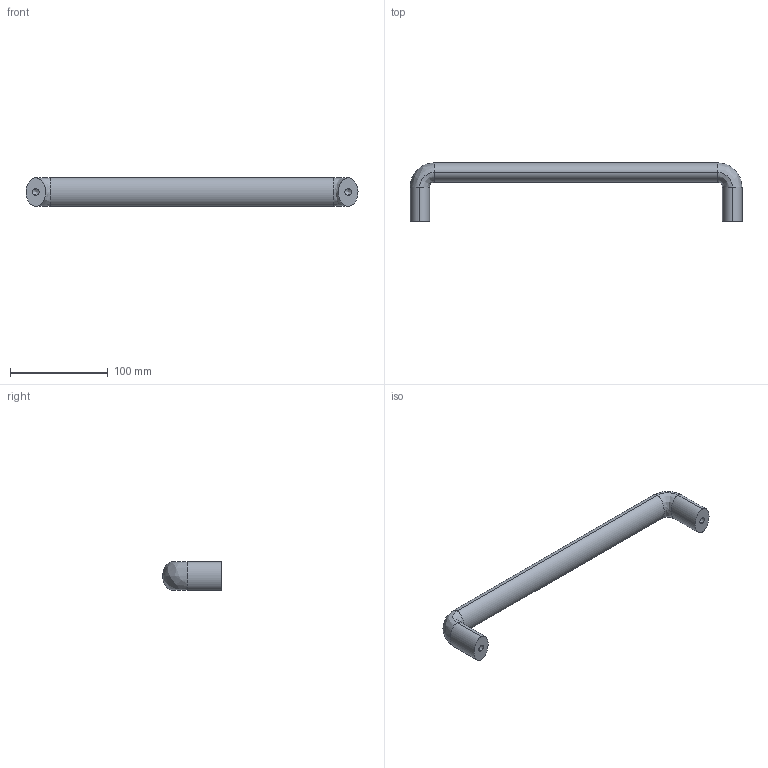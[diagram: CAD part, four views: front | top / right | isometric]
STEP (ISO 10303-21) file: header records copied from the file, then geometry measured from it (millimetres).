
FILE_DESCRIPTION (( 'STEP AP203' ), '1' );
FILE_NAME ('SK4-8017-5.STEP', '2018-11-02T05:34:48', ( 'admin' ), ( 'Microsoft' ), 'SwSTEP 2.0', 'SolidWorks 2015', '' );
FILE_SCHEMA (( 'CONFIG_CONTROL_DESIGN' ));
Length unit declared in the file: millimetre
Products named in the file (1): SK4-8017-5
Bounding box: 339.98 x 59.99 x 29 mm (x, y, z)
Volume: 183793.1 mm3; surface area: 33474.3 mm2
Topology: 1 solids, 1 shells, 20 faces, 42 edges, 22 vertices
Faces by surface type: bspline 10, cylinder 4, cone 4, plane 2
Entity records: 633 total; most frequent: CARTESIAN_POINT 219, ORIENTED_EDGE 76, DIRECTION 60, EDGE_CURVE 38, AXIS2_PLACEMENT_3D 23, VERTEX_POINT 22, EDGE_LOOP 22, ADVANCED_FACE 20
